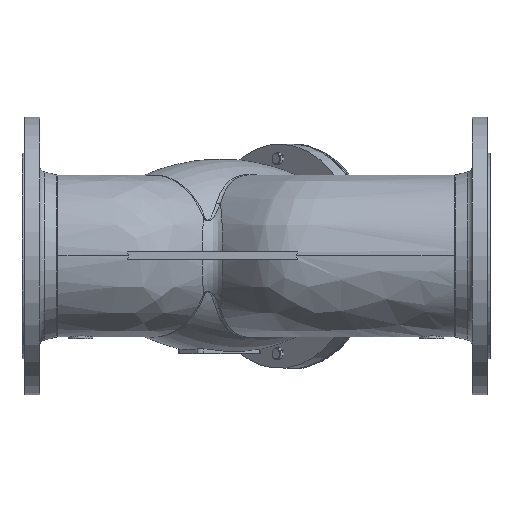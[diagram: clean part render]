
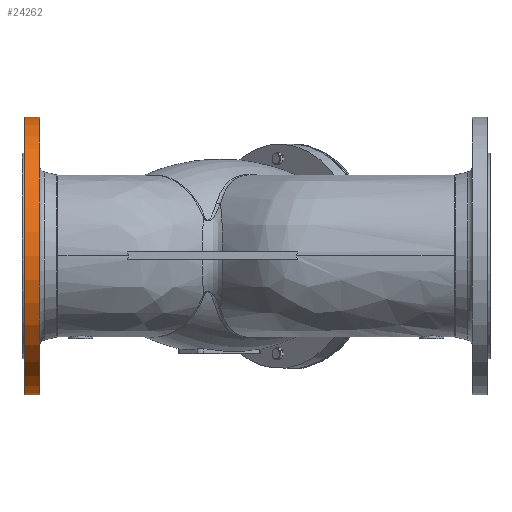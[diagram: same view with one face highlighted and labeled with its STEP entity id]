
A CAD part, top view. The second image highlights one B-rep face of the part: STEP entity #24262.
In plain terms, the highlighted cylindrical face has radius 142.5 mm (diameter 285 mm), a partial arc.
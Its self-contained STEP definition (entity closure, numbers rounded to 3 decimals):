
#18939 = PLANE('',#18940);
#18940 = AXIS2_PLACEMENT_3D('',#18941,#18942,#18943);
#18941 = CARTESIAN_POINT('',(243.006,-19.723,
    -21.074));
#18942 = DIRECTION('',(1.,0.,0.));
#18943 = DIRECTION('',(0.,1.,0.));
#23038 = PLANE('',#23039);
#23039 = AXIS2_PLACEMENT_3D('',#23040,#23041,#23042);
#23040 = CARTESIAN_POINT('',(258.006,-19.723,
    -70.608));
#23041 = DIRECTION('',(-1.,0.,0.));
#23042 = DIRECTION('',(0.,-1.,0.));
#23625 = EDGE_CURVE('',#23626,#23628,#23630,.T.);
#23626 = VERTEX_POINT('',#23627);
#23627 = CARTESIAN_POINT('',(258.006,-162.223,
    -163.574));
#23628 = VERTEX_POINT('',#23629);
#23629 = CARTESIAN_POINT('',(258.006,122.777,
    -163.574));
#23630 = SURFACE_CURVE('',#23631,(#23636,#23643),.PCURVE_S1.);
#23631 = CIRCLE('',#23632,142.5);
#23632 = AXIS2_PLACEMENT_3D('',#23633,#23634,#23635);
#23633 = CARTESIAN_POINT('',(258.006,-19.723,
    -163.574));
#23634 = DIRECTION('',(-1.,0.,0.));
#23635 = DIRECTION('',(0.,-1.,0.));
#23636 = PCURVE('',#23038,#23637);
#23637 = DEFINITIONAL_REPRESENTATION('',(#23638),#23642);
#23638 = CIRCLE('',#23639,142.5);
#23639 = AXIS2_PLACEMENT_2D('',#23640,#23641);
#23640 = CARTESIAN_POINT('',(0.,-92.965));
#23641 = DIRECTION('',(1.,0.));
#23642 = ( GEOMETRIC_REPRESENTATION_CONTEXT(2) 
PARAMETRIC_REPRESENTATION_CONTEXT() REPRESENTATION_CONTEXT('2D SPACE',''
  ) );
#23643 = PCURVE('',#23644,#23649);
#23644 = CYLINDRICAL_SURFACE('',#23645,142.5);
#23645 = AXIS2_PLACEMENT_3D('',#23646,#23647,#23648);
#23646 = CARTESIAN_POINT('',(230.006,-19.723,
    -163.574));
#23647 = DIRECTION('',(-1.,0.,0.));
#23648 = DIRECTION('',(0.,-1.,0.));
#23649 = DEFINITIONAL_REPRESENTATION('',(#23650),#23654);
#23650 = LINE('',#23651,#23652);
#23651 = CARTESIAN_POINT('',(0.,-28.));
#23652 = VECTOR('',#23653,1.);
#23653 = DIRECTION('',(1.,0.));
#23654 = ( GEOMETRIC_REPRESENTATION_CONTEXT(2) 
PARAMETRIC_REPRESENTATION_CONTEXT() REPRESENTATION_CONTEXT('2D SPACE',''
  ) );
#23671 = CYLINDRICAL_SURFACE('',#23672,142.5);
#23672 = AXIS2_PLACEMENT_3D('',#23673,#23674,#23675);
#23673 = CARTESIAN_POINT('',(230.006,-19.723,
    -163.574));
#23674 = DIRECTION('',(-1.,0.,0.));
#23675 = DIRECTION('',(0.,-1.,0.));
#24262 = ADVANCED_FACE('',(#24263),#23644,.T.);
#24263 = FACE_BOUND('',#24264,.T.);
#24264 = EDGE_LOOP('',(#24265,#24266,#24289,#24317));
#24265 = ORIENTED_EDGE('',*,*,#23625,.T.);
#24266 = ORIENTED_EDGE('',*,*,#24267,.T.);
#24267 = EDGE_CURVE('',#23628,#24268,#24270,.T.);
#24268 = VERTEX_POINT('',#24269);
#24269 = CARTESIAN_POINT('',(243.006,122.777,
    -163.574));
#24270 = SURFACE_CURVE('',#24271,(#24275,#24282),.PCURVE_S1.);
#24271 = LINE('',#24272,#24273);
#24272 = CARTESIAN_POINT('',(230.006,122.777,
    -163.574));
#24273 = VECTOR('',#24274,1.);
#24274 = DIRECTION('',(-1.,0.,0.));
#24275 = PCURVE('',#23644,#24276);
#24276 = DEFINITIONAL_REPRESENTATION('',(#24277),#24281);
#24277 = LINE('',#24278,#24279);
#24278 = CARTESIAN_POINT('',(3.142,0.));
#24279 = VECTOR('',#24280,1.);
#24280 = DIRECTION('',(0.,1.));
#24281 = ( GEOMETRIC_REPRESENTATION_CONTEXT(2) 
PARAMETRIC_REPRESENTATION_CONTEXT() REPRESENTATION_CONTEXT('2D SPACE',''
  ) );
#24282 = PCURVE('',#23671,#24283);
#24283 = DEFINITIONAL_REPRESENTATION('',(#24284),#24288);
#24284 = LINE('',#24285,#24286);
#24285 = CARTESIAN_POINT('',(3.142,0.));
#24286 = VECTOR('',#24287,1.);
#24287 = DIRECTION('',(0.,1.));
#24288 = ( GEOMETRIC_REPRESENTATION_CONTEXT(2) 
PARAMETRIC_REPRESENTATION_CONTEXT() REPRESENTATION_CONTEXT('2D SPACE',''
  ) );
#24289 = ORIENTED_EDGE('',*,*,#24290,.F.);
#24290 = EDGE_CURVE('',#24291,#24268,#24293,.T.);
#24291 = VERTEX_POINT('',#24292);
#24292 = CARTESIAN_POINT('',(243.006,-162.223,
    -163.574));
#24293 = SURFACE_CURVE('',#24294,(#24299,#24306),.PCURVE_S1.);
#24294 = CIRCLE('',#24295,142.5);
#24295 = AXIS2_PLACEMENT_3D('',#24296,#24297,#24298);
#24296 = CARTESIAN_POINT('',(243.006,-19.723,
    -163.574));
#24297 = DIRECTION('',(-1.,0.,0.));
#24298 = DIRECTION('',(0.,-1.,0.));
#24299 = PCURVE('',#23644,#24300);
#24300 = DEFINITIONAL_REPRESENTATION('',(#24301),#24305);
#24301 = LINE('',#24302,#24303);
#24302 = CARTESIAN_POINT('',(0.,-13.));
#24303 = VECTOR('',#24304,1.);
#24304 = DIRECTION('',(1.,0.));
#24305 = ( GEOMETRIC_REPRESENTATION_CONTEXT(2) 
PARAMETRIC_REPRESENTATION_CONTEXT() REPRESENTATION_CONTEXT('2D SPACE',''
  ) );
#24306 = PCURVE('',#18939,#24307);
#24307 = DEFINITIONAL_REPRESENTATION('',(#24308),#24316);
#24308 = ( BOUNDED_CURVE() B_SPLINE_CURVE(2,(#24309,#24310,#24311,#24312
    ,#24313,#24314,#24315),.UNSPECIFIED.,.T.,.F.) 
B_SPLINE_CURVE_WITH_KNOTS((1,2,2,2,2,1),(-2.094,0.,
    2.094,4.189,6.283,8.378),
.UNSPECIFIED.) CURVE() GEOMETRIC_REPRESENTATION_ITEM() 
RATIONAL_B_SPLINE_CURVE((1.,0.5,1.,0.5,1.,0.5,1.)) REPRESENTATION_ITEM(
  '') );
#24309 = CARTESIAN_POINT('',(-142.5,-142.5));
#24310 = CARTESIAN_POINT('',(-142.5,104.317));
#24311 = CARTESIAN_POINT('',(71.25,-19.091));
#24312 = CARTESIAN_POINT('',(285.,-142.5));
#24313 = CARTESIAN_POINT('',(71.25,-265.909));
#24314 = CARTESIAN_POINT('',(-142.5,-389.317));
#24315 = CARTESIAN_POINT('',(-142.5,-142.5));
#24316 = ( GEOMETRIC_REPRESENTATION_CONTEXT(2) 
PARAMETRIC_REPRESENTATION_CONTEXT() REPRESENTATION_CONTEXT('2D SPACE',''
  ) );
#24317 = ORIENTED_EDGE('',*,*,#24318,.F.);
#24318 = EDGE_CURVE('',#23626,#24291,#24319,.T.);
#24319 = SURFACE_CURVE('',#24320,(#24324,#24331),.PCURVE_S1.);
#24320 = LINE('',#24321,#24322);
#24321 = CARTESIAN_POINT('',(230.006,-162.223,
    -163.574));
#24322 = VECTOR('',#24323,1.);
#24323 = DIRECTION('',(-1.,0.,0.));
#24324 = PCURVE('',#23644,#24325);
#24325 = DEFINITIONAL_REPRESENTATION('',(#24326),#24330);
#24326 = LINE('',#24327,#24328);
#24327 = CARTESIAN_POINT('',(0.,0.));
#24328 = VECTOR('',#24329,1.);
#24329 = DIRECTION('',(0.,1.));
#24330 = ( GEOMETRIC_REPRESENTATION_CONTEXT(2) 
PARAMETRIC_REPRESENTATION_CONTEXT() REPRESENTATION_CONTEXT('2D SPACE',''
  ) );
#24331 = PCURVE('',#23671,#24332);
#24332 = DEFINITIONAL_REPRESENTATION('',(#24333),#24337);
#24333 = LINE('',#24334,#24335);
#24334 = CARTESIAN_POINT('',(6.283,0.));
#24335 = VECTOR('',#24336,1.);
#24336 = DIRECTION('',(0.,1.));
#24337 = ( GEOMETRIC_REPRESENTATION_CONTEXT(2) 
PARAMETRIC_REPRESENTATION_CONTEXT() REPRESENTATION_CONTEXT('2D SPACE',''
  ) );
